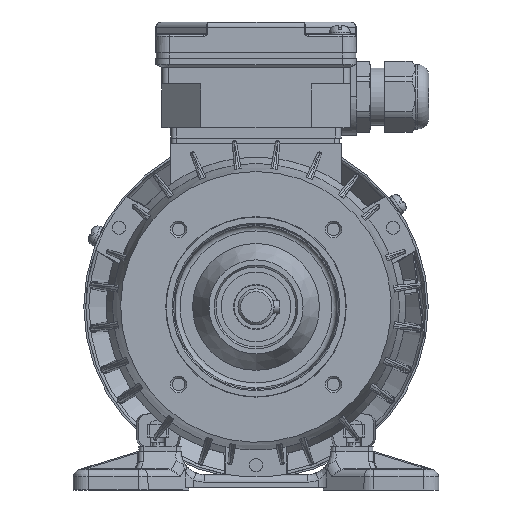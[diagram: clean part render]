
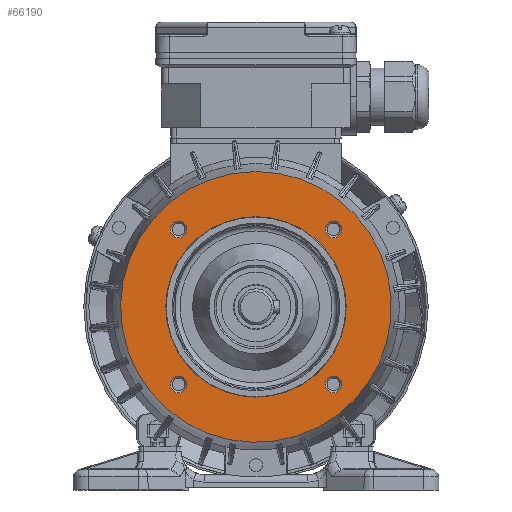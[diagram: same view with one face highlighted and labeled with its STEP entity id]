
A CAD part, front view. The second image highlights one B-rep face of the part: STEP entity #66190.
In plain terms, the highlighted planar face has unit normal (0, -1, 0).
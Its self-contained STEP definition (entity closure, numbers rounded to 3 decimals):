
#19560=ORIENTED_EDGE('',*,*,#29093,.T.);
#19561=ORIENTED_EDGE('',*,*,#29092,.T.);
#19562=ORIENTED_EDGE('',*,*,#29091,.T.);
#19563=ORIENTED_EDGE('',*,*,#29090,.T.);
#19564=ORIENTED_EDGE('',*,*,#29159,.F.);
#19565=ORIENTED_EDGE('',*,*,#29089,.T.);
#29089=EDGE_CURVE('',#34702,#34702,#37478,.T.);
#29090=EDGE_CURVE('',#34703,#34703,#37479,.T.);
#29091=EDGE_CURVE('',#34704,#34704,#37480,.T.);
#29092=EDGE_CURVE('',#34705,#34705,#37481,.T.);
#29093=EDGE_CURVE('',#34706,#34706,#37482,.T.);
#29159=EDGE_CURVE('',#34754,#34754,#37503,.T.);
#34702=VERTEX_POINT('',#102851);
#34703=VERTEX_POINT('',#102854);
#34704=VERTEX_POINT('',#102857);
#34705=VERTEX_POINT('',#102860);
#34706=VERTEX_POINT('',#102863);
#34754=VERTEX_POINT('',#103093);
#37478=CIRCLE('',#70235,52.495);
#37479=CIRCLE('',#70237,3.258);
#37480=CIRCLE('',#70239,3.258);
#37481=CIRCLE('',#70241,3.258);
#37482=CIRCLE('',#70243,3.258);
#37503=CIRCLE('',#70296,34.997);
#40359=EDGE_LOOP('',(#19560));
#40360=EDGE_LOOP('',(#19561));
#40361=EDGE_LOOP('',(#19562));
#40362=EDGE_LOOP('',(#19563));
#40363=EDGE_LOOP('',(#19564));
#40364=EDGE_LOOP('',(#19565));
#43477=FACE_BOUND('',#40359,.T.);
#43478=FACE_BOUND('',#40360,.T.);
#43479=FACE_BOUND('',#40361,.T.);
#43480=FACE_BOUND('',#40362,.T.);
#43481=FACE_BOUND('',#40363,.T.);
#43482=FACE_BOUND('',#40364,.T.);
#45363=PLANE('',#70295);
#66190=ADVANCED_FACE('',(#43477,#43478,#43479,#43480,#43481,#43482),#45363,
 .F.);
#70235=AXIS2_PLACEMENT_3D('',#102850,#80477,#80478);
#70237=AXIS2_PLACEMENT_3D('',#102853,#80481,#80482);
#70239=AXIS2_PLACEMENT_3D('',#102856,#80485,#80486);
#70241=AXIS2_PLACEMENT_3D('',#102859,#80489,#80490);
#70243=AXIS2_PLACEMENT_3D('',#102862,#80493,#80494);
#70295=AXIS2_PLACEMENT_3D('',#103091,#80620,#80621);
#70296=AXIS2_PLACEMENT_3D('',#103092,#80622,#80623);
#80477=DIRECTION('',(0.,-1.,0.));
#80478=DIRECTION('',(0.,0.,1.));
#80481=DIRECTION('',(0.,1.,0.));
#80482=DIRECTION('',(1.,0.,0.));
#80485=DIRECTION('',(0.,1.,0.));
#80486=DIRECTION('',(1.,0.,0.));
#80489=DIRECTION('',(0.,1.,0.));
#80490=DIRECTION('',(1.,0.,0.));
#80493=DIRECTION('',(0.,1.,0.));
#80494=DIRECTION('',(1.,0.,0.));
#80620=DIRECTION('',(0.,1.,0.));
#80621=DIRECTION('',(0.,0.,-1.));
#80622=DIRECTION('',(0.,-1.,0.));
#80623=DIRECTION('',(0.,0.,1.));
#102850=CARTESIAN_POINT('',(0.,-40.492,0.));
#102851=CARTESIAN_POINT('',(0.,-40.492,52.495));
#102853=CARTESIAN_POINT('',(30.049,-40.492,30.049));
#102854=CARTESIAN_POINT('',(33.307,-40.492,30.049));
#102856=CARTESIAN_POINT('',(30.049,-40.492,-30.049));
#102857=CARTESIAN_POINT('',(33.307,-40.492,-30.049));
#102859=CARTESIAN_POINT('',(-30.049,-40.492,-30.049));
#102860=CARTESIAN_POINT('',(-26.791,-40.492,-30.049));
#102862=CARTESIAN_POINT('',(-30.049,-40.492,30.049));
#102863=CARTESIAN_POINT('',(-26.791,-40.492,30.049));
#103091=CARTESIAN_POINT('',(0.,-40.492,52.495));
#103092=CARTESIAN_POINT('',(0.,-40.492,0.));
#103093=CARTESIAN_POINT('',(0.,-40.492,34.997));
